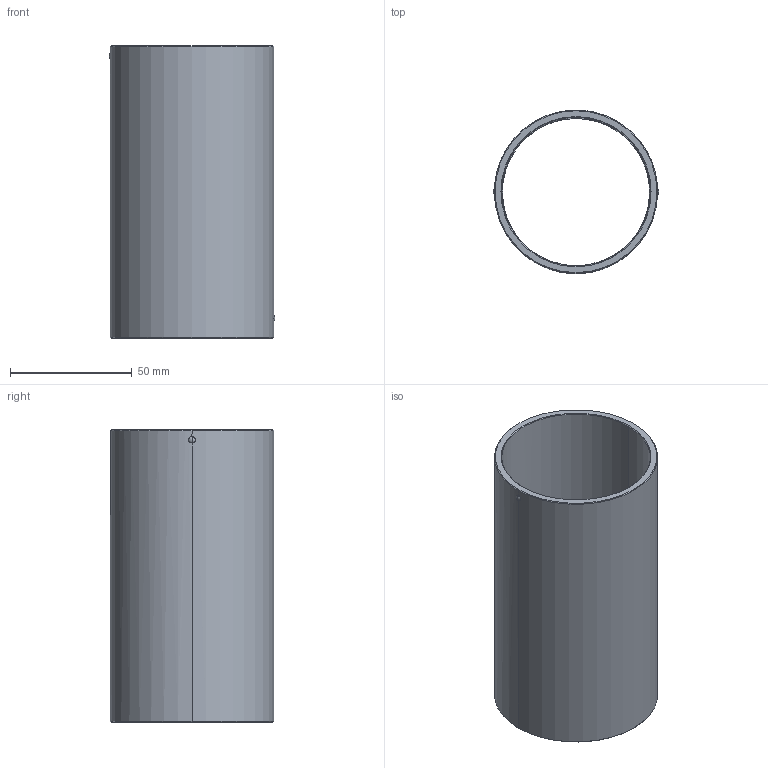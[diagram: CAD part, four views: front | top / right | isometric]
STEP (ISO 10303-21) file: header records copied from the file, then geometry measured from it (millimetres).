
FILE_DESCRIPTION(('CATIA V5 STEP Exchange'),'2;1');
FILE_NAME('C:\Users\Utente\Desktop\IO LAVORO\3D X SITO CF\X SITO\730\730-60x120.stp','2021-01-07T16:04:15+00:00',('none'),('none'),'CATIA Version 5 Release 20 GA (IN-10)','CATIA V5 STEP AP203','none');
FILE_SCHEMA(('CONFIG_CONTROL_DESIGN'));
Length unit declared in the file: millimetre
Products named in the file (1): 730-60x120
Bounding box: 67.99 x 67 x 120 mm (x, y, z)
Volume: 71361.8 mm3; surface area: 50032.4 mm2
Topology: 1 solids, 1 shells, 44 faces, 120 edges, 76 vertices
Faces by surface type: cylinder 18, cone 10, plane 8, sphere 8
Entity records: 1748 total; most frequent: CARTESIAN_POINT 685, ORIENTED_EDGE 240, DIRECTION 159, EDGE_CURVE 120, AXIS2_PLACEMENT_3D 78, VERTEX_POINT 76, B_SPLINE_CURVE_WITH_KNOTS 49, EDGE_LOOP 48
